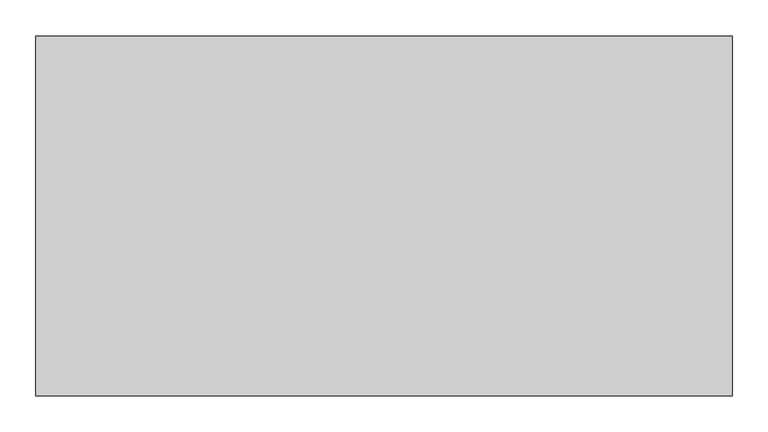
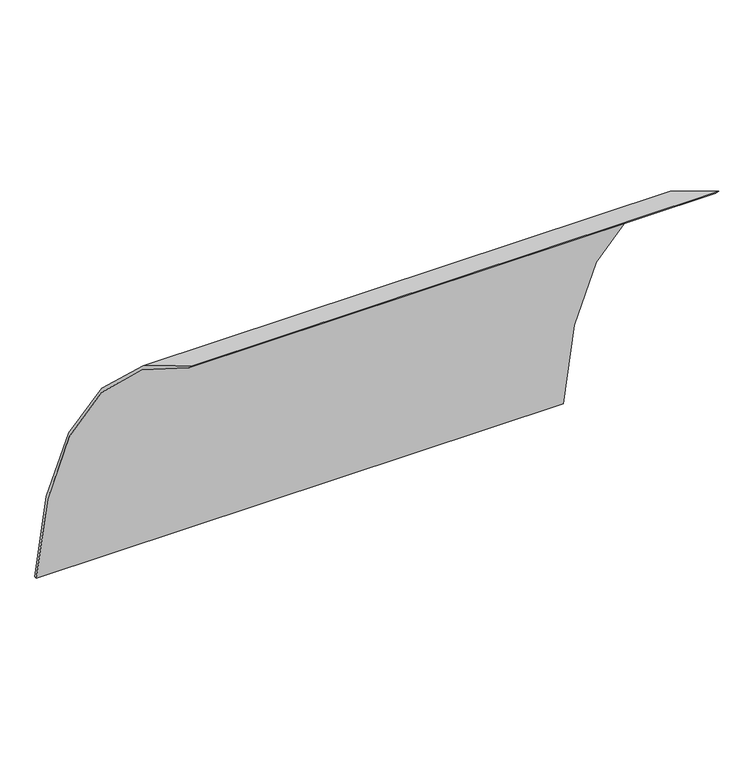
"""IFC4 building model written with IfcOpenShell, lengths in millimetres: proxy geometry, cascada : cascada."""

from ifc_helpers import new_model, si_unit, point, frame, frame_2d, origin, place, context, project, spatial, polyline, circle_curve, trimmed, segment, composite_curve, outline, extrude, source, transform, mapped, element, save


def generic_models_a66f869a(model_context):
    return source(origin(), model_context, "Body", "SweptSolid", [
        extrude(outline(composite_curve([segment(trimmed(circle_curve(frame_2d((6525.3274915, -135.0662993)), 880.0), [point((7401.1650395, -49.5760105))], [point((6916.1919936, 653.3656515))], True, "CARTESIAN"), True, "CONTINUOUS"), segment(polyline([(6916.1919936, 653.3656515), (6905.3869084, 664.1707366)]), True, "CONTINUOUS"), segment(trimmed(circle_curve(frame_2d((6525.3274915, -135.0662993)), 885.0), [point((6905.3869084, 664.1707366))], [point((7406.188667, -49.5760105))], False, "CARTESIAN"), True, "CONTINUOUS"), segment(polyline([(7406.188667, -49.5760105), (7401.1650395, -49.5760105)]), True, "CONTINUOUS")], self_intersect=False)), frame((7250.56986, 0.0, 0.0), z_axis=(1.0, 0.0, 0.0), x_axis=(0.0, 1.0, 0.0)), (0.0, 0.0, 1.0), 967.5982609),
    ])


if __name__ == "__main__":
    model = new_model("IFC4")
    model_context = context("Model", 3, world=origin())
    ifc_project = project(units=[si_unit("LENGTHUNIT", "METRE", prefix="MILLI")], contexts=[model_context])
    site = spatial("IfcSite", under=ifc_project)
    building = spatial("IfcBuilding", under=site)
    placement = place(None, origin())
    generic_models_shape = generic_models_a66f869a(model_context)
    element("IfcBuildingElementProxy", 1, Name="cascada : cascada", ObjectType="cascada : cascada", at=placement, inside=building, context=model_context, shape_type="MappedRepresentation", body=[
        mapped(generic_models_shape, transform((0.0, 0.0, 0.0), x_axis=(1.0, 0.0, 0.0), y_axis=(0.0, 1.0, 0.0), z_axis=(0.0, 0.0, 1.0))),
    ])
    save(model, "model.ifc")
